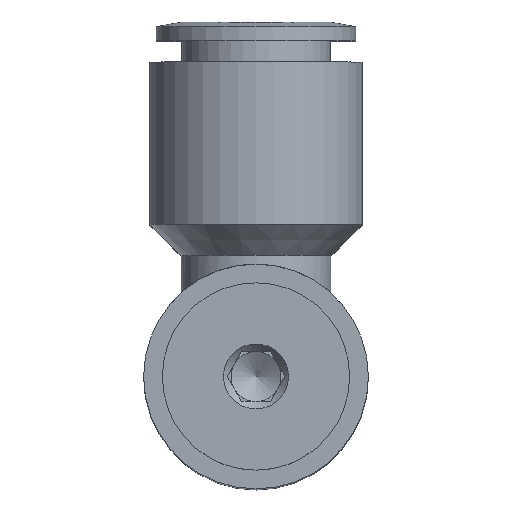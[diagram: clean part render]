
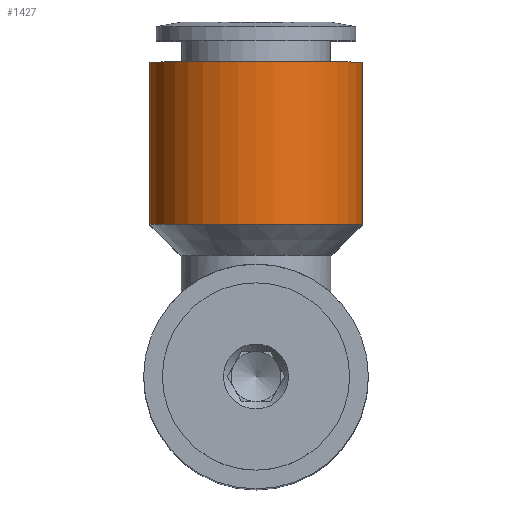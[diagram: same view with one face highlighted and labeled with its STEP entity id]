
A CAD part, top view. The second image highlights one B-rep face of the part: STEP entity #1427.
In plain terms, the highlighted cylindrical face has radius 8.5 mm (diameter 17 mm), a full revolution.
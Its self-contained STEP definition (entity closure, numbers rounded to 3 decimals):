
#1383=CARTESIAN_POINT('',(0.0,12.2,25.5));
#1384=VERTEX_POINT('',#1383);
#1385=CARTESIAN_POINT('',(0.0,12.2,34.0));
#1386=DIRECTION('',(0.0,1.0,0.0));
#1387=DIRECTION('',(-1.0,0.0,0.0));
#1388=AXIS2_PLACEMENT_3D('',#1385,#1386,#1387);
#1389=CIRCLE('',#1388,8.5);
#1390=EDGE_CURVE('',#1384,#1384,#1389,.T.);
#1398=CARTESIAN_POINT('',(0.0,18.7,34.0));
#1399=DIRECTION('',(0.0,1.0,0.0));
#1400=DIRECTION('',(-1.0,0.0,0.0));
#1401=AXIS2_PLACEMENT_3D('',#1398,#1399,#1400);
#1402=CYLINDRICAL_SURFACE('',#1401,8.5);
#1403=ORIENTED_EDGE('',*,*,#1390,.T.);
#1404=CARTESIAN_POINT('',(0.0,25.2,25.5));
#1405=VERTEX_POINT('',#1404);
#1406=CARTESIAN_POINT('',(0.0,12.2,25.5));
#1407=DIRECTION('',(0.0,1.0,0.0));
#1408=VECTOR('',#1407,13.);
#1409=LINE('',#1406,#1408);
#1410=EDGE_CURVE('',#1384,#1405,#1409,.T.);
#1411=ORIENTED_EDGE('',*,*,#1410,.T.);
#1412=CARTESIAN_POINT('',(0.0,25.2,34.0));
#1413=DIRECTION('',(0.0,1.0,0.0));
#1414=DIRECTION('',(-1.0,0.0,0.0));
#1415=AXIS2_PLACEMENT_3D('',#1412,#1413,#1414);
#1416=CIRCLE('',#1415,8.5);
#1417=EDGE_CURVE('',#1405,#1405,#1416,.T.);
#1418=ORIENTED_EDGE('',*,*,#1417,.F.);
#1419=CARTESIAN_POINT('',(0.0,12.2,25.5));
#1420=DIRECTION('',(0.0,1.0,0.0));
#1421=VECTOR('',#1420,13.);
#1422=LINE('',#1419,#1421);
#1423=EDGE_CURVE('',#1384,#1405,#1422,.T.);
#1424=ORIENTED_EDGE('',*,*,#1423,.F.);
#1425=EDGE_LOOP('',(#1403,#1411,#1418,#1424));
#1426=FACE_OUTER_BOUND('',#1425,.T.);
#1427=ADVANCED_FACE('',(#1426),#1402,.T.);
